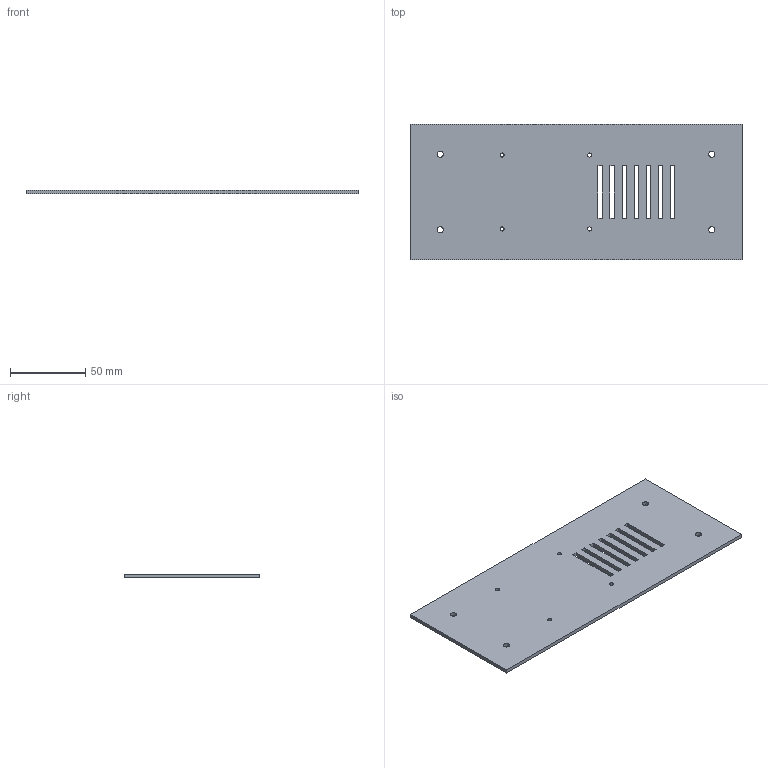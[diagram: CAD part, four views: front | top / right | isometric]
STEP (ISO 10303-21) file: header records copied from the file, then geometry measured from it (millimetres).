
FILE_DESCRIPTION(('Open CASCADE Model'),'2;1');
FILE_NAME('Open CASCADE Shape Model','2026-10-12T17:04:12',('Author'),( 'Open CASCADE'),'Open CASCADE STEP processor 7.7','Open CASCADE 7.7' ,'Unknown');
FILE_SCHEMA(('AUTOMOTIVE_DESIGN { 1 0 10303 214 1 1 1 1 }'));
Length unit declared in the file: millimetre
Products named in the file (1): COMPOUND
Bounding box: 220 x 90 x 2.5 mm (x, y, z)
Volume: 47479.6 mm3; surface area: 41074.2 mm2
Topology: 1 solids, 1 shells, 42 faces, 120 edges, 80 vertices
Faces by surface type: plane 34, cylinder 8
Full cylindrical faces by diameter (mm): 2.7 x4, 4 x4
Entity records: 2878 total; most frequent: CARTESIAN_POINT 595, DIRECTION 350, ORIENTED_EDGE 240, PCURVE 240, DEFINITIONAL_REPRESENTATION 240, LINE 216, VECTOR 216, EDGE_CURVE 120
